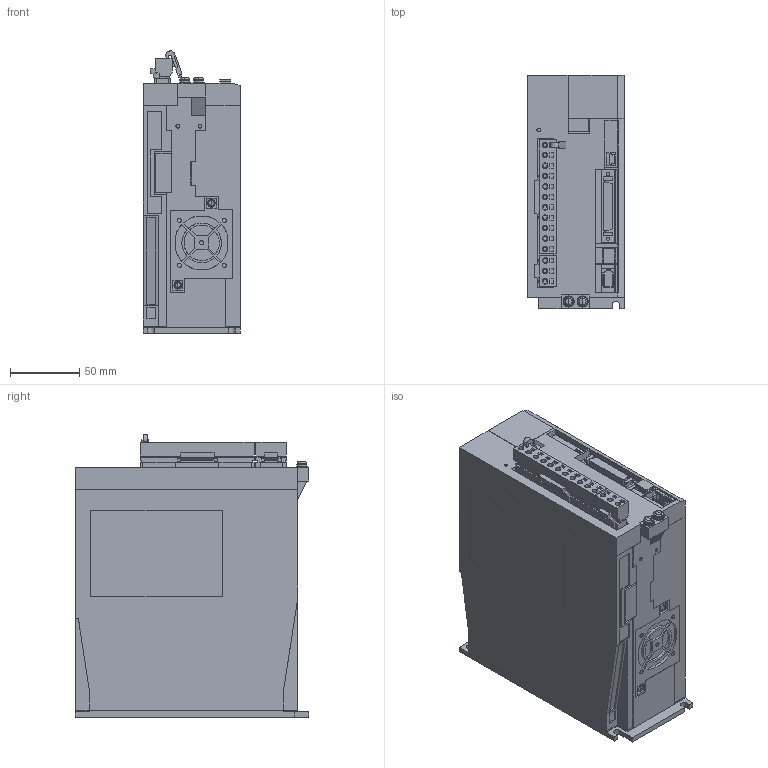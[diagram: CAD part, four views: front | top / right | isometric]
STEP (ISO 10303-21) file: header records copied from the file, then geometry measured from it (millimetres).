
FILE_DESCRIPTION((''),'2;1');
FILE_NAME('SGDXS-7R6A00A_ASM','2022-02-25T',('jiangtianming_shen'),('Yaskawa Electric (Shenyang) Co.,Ltd'),'PRO/ENGINEER BY PARAMETRIC TECHNOLOGY CORPORATION, 2017170','PRO/ENGINEER BY PARAMETRIC TECHNOLOGY CORPORATION, 2017170','');
FILE_SCHEMA(('AUTOMOTIVE_DESIGN { 1 0 10303 214 1 1 1 1 }'));
Length unit declared in the file: millimetre
Products named in the file (9): SGDXS_7R6A00A_BASE; SGDXS_7R6A00A_COVER_1; SGDXS_7R6A00A_CONNECTOR_2_1; SGDXS_7R6A00A_CONNECTOR_1_1; SGDXS_7R6A00A_PIN_1; SGDXS_7R6A00A_CONNECTOR_3_1; SGDXS_7R6A00A_COVER2_1; SGDXS_7R6A00A_COVER3_1_AF0; SGDXS-7R6A00A_ASM
Assembly tree (8 placements, depth 2):
  SGDXS-7R6A00A_ASM
    SGDXS_7R6A00A_BASE
    SGDXS_7R6A00A_COVER_1
    SGDXS_7R6A00A_CONNECTOR_2_1
    SGDXS_7R6A00A_CONNECTOR_1_1
    SGDXS_7R6A00A_PIN_1
    SGDXS_7R6A00A_CONNECTOR_3_1
    SGDXS_7R6A00A_COVER2_1
    SGDXS_7R6A00A_COVER3_1_AF0
Bounding box: 70.5 x 168 x 203.22 mm (x, y, z)
Volume: 1998936.1 mm3; surface area: 165857.4 mm2
Topology: 8 solids, 8 shells, 1709 faces, 4436 edges, 2922 vertices
Faces by surface type: plane 1491, cylinder 186, torus 16, cone 8, sphere 8
Entity records: 66578 total; most frequent: CARTESIAN_POINT 9101, ORIENTED_EDGE 8856, DIRECTION 8332, EDGE_CURVE 4428, VECTOR 3976, LINE 3976, VERTEX_POINT 2922, AXIS2_PLACEMENT_3D 2178
